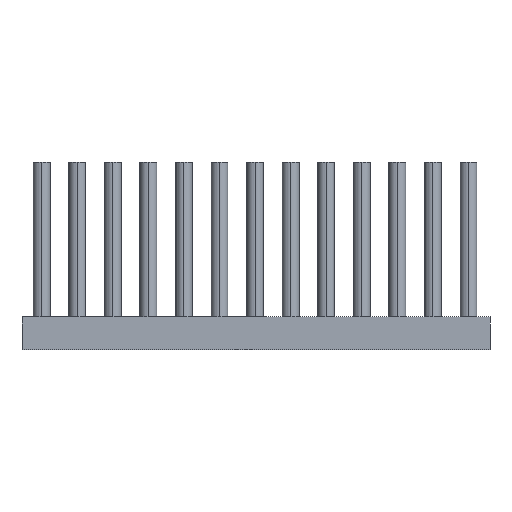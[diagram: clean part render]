
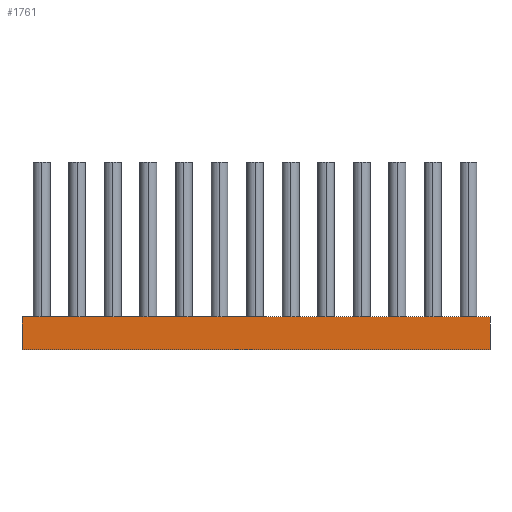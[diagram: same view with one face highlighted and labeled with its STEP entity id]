
A CAD part, left-side view. The second image highlights one B-rep face of the part: STEP entity #1761.
In plain terms, the highlighted planar face has unit normal (-1, 0, 0).
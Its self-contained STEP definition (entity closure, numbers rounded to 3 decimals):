
#643 = VECTOR ( 'NONE', #8821, 1000. ) ;
#1029 = CARTESIAN_POINT ( 'NONE',  ( 0., 0., 3.5 ) ) ;
#1422 = VERTEX_POINT ( 'NONE', #9890 ) ;
#1761 = ADVANCED_FACE ( 'NONE', ( #11333 ), #9322, .F. ) ;
#2110 = CARTESIAN_POINT ( 'NONE',  ( 0., 50., 3.5 ) ) ;
#2246 = AXIS2_PLACEMENT_3D ( 'NONE', #7123, #7209, #8272 ) ;
#2611 = LINE ( 'NONE', #5841, #10685 ) ;
#2700 = DIRECTION ( 'NONE',  ( 0., -1., 0. ) ) ;
#2868 = VERTEX_POINT ( 'NONE', #3085 ) ;
#3085 = CARTESIAN_POINT ( 'NONE',  ( 0., 50., 3.5 ) ) ;
#3339 = VERTEX_POINT ( 'NONE', #5322 ) ;
#3813 = LINE ( 'NONE', #2110, #643 ) ;
#4239 = DIRECTION ( 'NONE',  ( 0., 0., -1. ) ) ;
#4842 = ORIENTED_EDGE ( 'NONE', *, *, #13200, .T. ) ;
#5322 = CARTESIAN_POINT ( 'NONE',  ( 0., 0., 0. ) ) ;
#5558 = VECTOR ( 'NONE', #4239, 1000. ) ;
#5841 = CARTESIAN_POINT ( 'NONE',  ( 0., 0., 0. ) ) ;
#6800 = ORIENTED_EDGE ( 'NONE', *, *, #8478, .T. ) ;
#7123 = CARTESIAN_POINT ( 'NONE',  ( 0., 0., 3.5 ) ) ;
#7209 = DIRECTION ( 'NONE',  ( 1., 0., 0. ) ) ;
#8272 = DIRECTION ( 'NONE',  ( 0., 0., -1. ) ) ;
#8317 = EDGE_LOOP ( 'NONE', ( #4842, #13535, #10660, #6800 ) ) ;
#8478 = EDGE_CURVE ( 'NONE', #2868, #13432, #3813, .T. ) ;
#8571 = DIRECTION ( 'NONE',  ( 0., -1., 0. ) ) ;
#8821 = DIRECTION ( 'NONE',  ( 0., 0., -1. ) ) ;
#9322 = PLANE ( 'NONE',  #2246 ) ;
#9585 = EDGE_CURVE ( 'NONE', #1422, #3339, #12192, .T. ) ;
#9890 = CARTESIAN_POINT ( 'NONE',  ( 0., 0., 3.5 ) ) ;
#10172 = CARTESIAN_POINT ( 'NONE',  ( 0., 50., 0. ) ) ;
#10561 = VECTOR ( 'NONE', #8571, 1000. ) ;
#10660 = ORIENTED_EDGE ( 'NONE', *, *, #10678, .F. ) ;
#10678 = EDGE_CURVE ( 'NONE', #2868, #1422, #13046, .T. ) ;
#10685 = VECTOR ( 'NONE', #2700, 1000. ) ;
#11333 = FACE_OUTER_BOUND ( 'NONE', #8317, .T. ) ;
#11761 = CARTESIAN_POINT ( 'NONE',  ( 0., 0., 3.5 ) ) ;
#12192 = LINE ( 'NONE', #1029, #5558 ) ;
#13046 = LINE ( 'NONE', #11761, #10561 ) ;
#13200 = EDGE_CURVE ( 'NONE', #13432, #3339, #2611, .T. ) ;
#13432 = VERTEX_POINT ( 'NONE', #10172 ) ;
#13535 = ORIENTED_EDGE ( 'NONE', *, *, #9585, .F. ) ;
